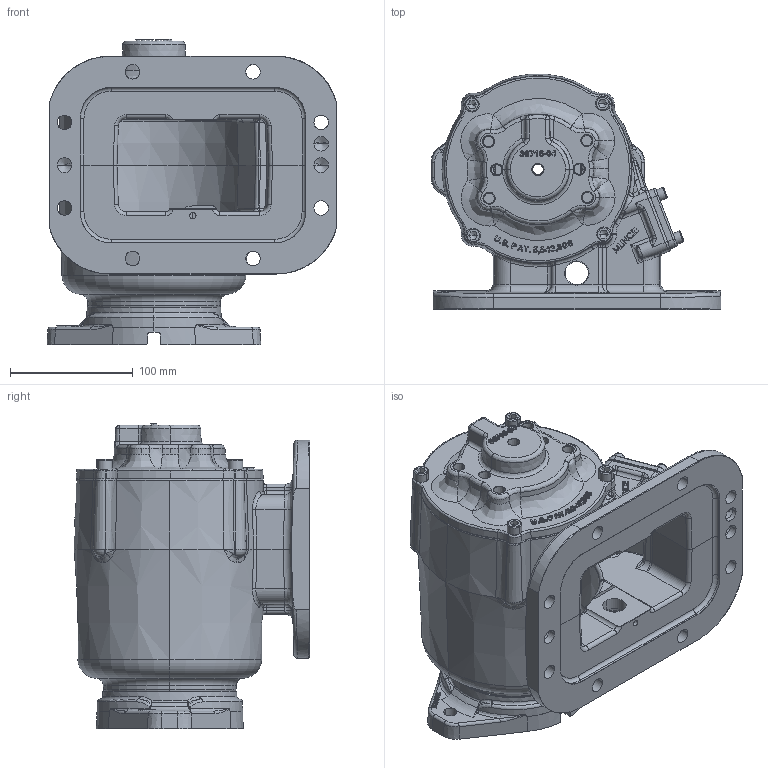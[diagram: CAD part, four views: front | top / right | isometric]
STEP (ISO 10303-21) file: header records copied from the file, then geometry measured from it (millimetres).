
FILE_DESCRIPTION (( 'STEP AP203' ), '1' );
FILE_NAME ('CS8S-XXXXX-E1SX.STEP', '2023-05-01T18:19:11', ( '' ), ( '' ), 'SwSTEP 2.0', 'SolidWorks 2021', '' );
FILE_SCHEMA (( 'CONFIG_CONTROL_DESIGN' ));
Length unit declared in the file: inch
Products named in the file (10): 11T37790; CS8S-XXXXX-E1SX; 10T21017; 19T35237; 14T35464; 19T41118; 16t34000; 15T36717; 01T42182_01T42182; 14TA3999
Assembly tree (15 placements, depth 3):
  CS8S-XXXXX-E1SX
    16t34000
    15T36717
    01T42182_01T42182
    10T21017
    19T35237  x4
    19T41118  x4
    14TA3999
      14T35464
      11T37790
Bounding box: 236.6 x 192.24 x 249.19 mm (x, y, z)
Volume: 1626608.9 mm3; surface area: 440141.2 mm2
Topology: 14 solids, 14 shells, 2189 faces, 5680 edges, 3532 vertices
Faces by surface type: bspline 781, plane 566, cylinder 412, cone 219, torus 187, sphere 24
Entity records: 100472 total; most frequent: CARTESIAN_POINT 54368, ORIENTED_EDGE 10532, DIRECTION 7558, EDGE_CURVE 5266, VERTEX_POINT 3319, AXIS2_PLACEMENT_3D 2782, EDGE_LOOP 2277, FACE_OUTER_BOUND 2057
